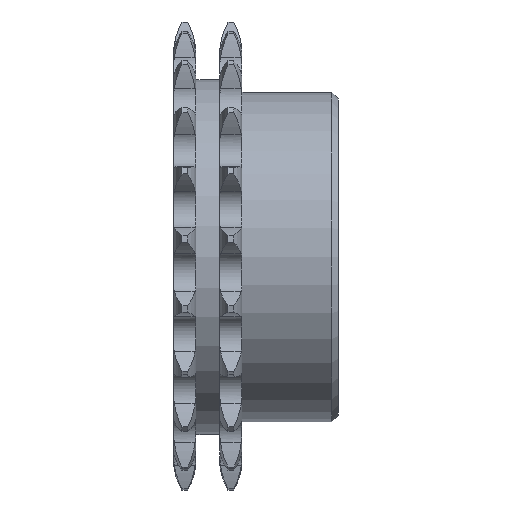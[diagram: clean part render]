
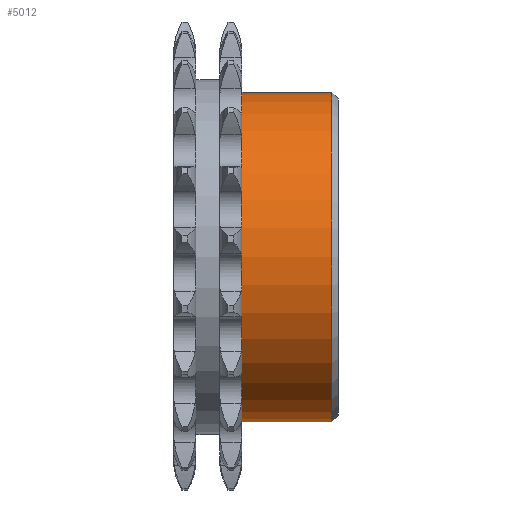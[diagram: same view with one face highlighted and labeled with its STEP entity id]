
A CAD part, top view. The second image highlights one B-rep face of the part: STEP entity #5012.
In plain terms, the highlighted cylindrical face has radius 20000 mm (diameter 40000 mm), a full revolution.
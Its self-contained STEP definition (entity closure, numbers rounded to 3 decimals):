
#22=FACE_BOUND('',#882,.T.);
#266=CIRCLE('',#5380,20000.);
#332=CIRCLE('',#5502,20000.);
#604=FACE_OUTER_BOUND('',#881,.T.);
#881=EDGE_LOOP('',(#4505));
#882=EDGE_LOOP('',(#4506));
#2172=VERTEX_POINT('',#10853);
#2175=VERTEX_POINT('',#10978);
#2903=EDGE_CURVE('',#2172,#2172,#266,.T.);
#2969=EDGE_CURVE('',#2175,#2175,#332,.T.);
#4505=ORIENTED_EDGE('',*,*,#2903,.T.);
#4506=ORIENTED_EDGE('',*,*,#2969,.F.);
#4745=CYLINDRICAL_SURFACE('',#5501,20000.);
#5012=ADVANCED_FACE('',(#604,#22),#4745,.T.);
#5380=AXIS2_PLACEMENT_3D('',#10854,#6412,#6413);
#5501=AXIS2_PLACEMENT_3D('',#10977,#6654,#6655);
#5502=AXIS2_PLACEMENT_3D('',#10979,#6656,#6657);
#6412=DIRECTION('center_axis',(1.,0.,0.));
#6413=DIRECTION('ref_axis',(0.,0.,-1.));
#6654=DIRECTION('center_axis',(1.,0.,0.));
#6655=DIRECTION('ref_axis',(0.,1.,0.));
#6656=DIRECTION('center_axis',(1.,0.,0.));
#6657=DIRECTION('ref_axis',(0.,0.,-1.));
#10853=CARTESIAN_POINT('',(10032.016,19991.439,0.));
#10854=CARTESIAN_POINT('Origin',(10032.016,-8.561,0.));
#10977=CARTESIAN_POINT('Origin',(15482.016,-8.561,0.));
#10978=CARTESIAN_POINT('',(20932.016,19991.439,0.));
#10979=CARTESIAN_POINT('Origin',(20932.016,-8.561,0.));
